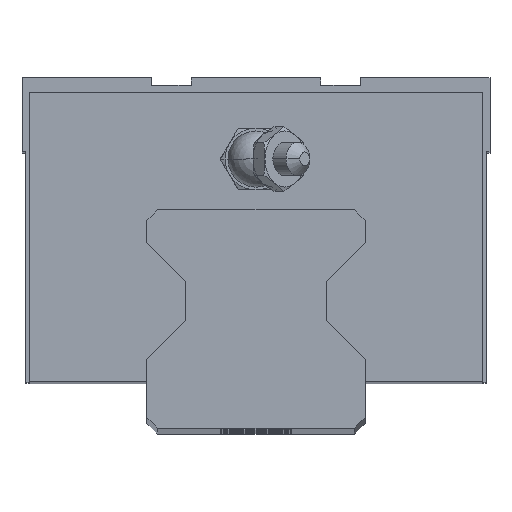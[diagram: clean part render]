
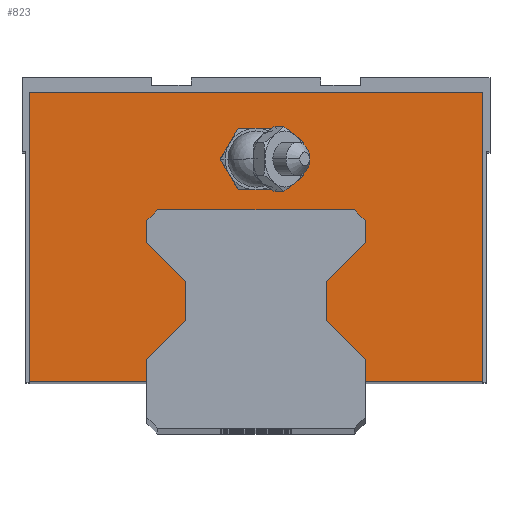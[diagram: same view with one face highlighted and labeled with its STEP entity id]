
A CAD part, top view. The second image highlights one B-rep face of the part: STEP entity #823.
In plain terms, the highlighted planar face has unit normal (0, 0, 1).
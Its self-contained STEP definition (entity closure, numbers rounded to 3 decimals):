
#823=ADVANCED_FACE('',(#1688,#1689),#1690,.T.);
#1688=FACE_BOUND('',#2548,.T.);
#1689=FACE_OUTER_BOUND('',#2549,.T.);
#1690=PLANE('',#2550);
#2548=EDGE_LOOP('',(#4874,#4875));
#2549=EDGE_LOOP('',(#4876,#4877,#4878,#4879,#4880,#4881,#4882,#4883,#4884,#4885,#4886,#4887,#4888,#4889,#4890,#4891,#4892,#4893));
#2550=AXIS2_PLACEMENT_3D('',#4894,#4895,#4896);
#4874=ORIENTED_EDGE('',*,*,#5739,.T.);
#4875=ORIENTED_EDGE('',*,*,#5065,.T.);
#4876=ORIENTED_EDGE('',*,*,#5672,.F.);
#4877=ORIENTED_EDGE('',*,*,#5641,.F.);
#4878=ORIENTED_EDGE('',*,*,#5635,.F.);
#4879=ORIENTED_EDGE('',*,*,#5727,.F.);
#4880=ORIENTED_EDGE('',*,*,#5487,.F.);
#4881=ORIENTED_EDGE('',*,*,#5683,.F.);
#4882=ORIENTED_EDGE('',*,*,#5662,.F.);
#4883=ORIENTED_EDGE('',*,*,#5751,.F.);
#4884=ORIENTED_EDGE('',*,*,#5547,.F.);
#4885=ORIENTED_EDGE('',*,*,#5602,.F.);
#4886=ORIENTED_EDGE('',*,*,#5658,.F.);
#4887=ORIENTED_EDGE('',*,*,#5163,.F.);
#4888=ORIENTED_EDGE('',*,*,#5646,.F.);
#4889=ORIENTED_EDGE('',*,*,#5793,.F.);
#4890=ORIENTED_EDGE('',*,*,#5332,.F.);
#4891=ORIENTED_EDGE('',*,*,#5520,.F.);
#4892=ORIENTED_EDGE('',*,*,#5826,.F.);
#4893=ORIENTED_EDGE('',*,*,#4946,.F.);
#4894=CARTESIAN_POINT('',(0.0,25.417,-34.1));
#4895=DIRECTION('',(0.,0.,1.0));
#4896=DIRECTION('',(1.0,0.0,0.));
#4946=EDGE_CURVE('',#5881,#5884,#5885,.T.);
#5065=EDGE_CURVE('',#6096,#6094,#6097,.T.);
#5163=EDGE_CURVE('',#6252,#6255,#6256,.T.);
#5332=EDGE_CURVE('',#6521,#6524,#6525,.T.);
#5487=EDGE_CURVE('',#6755,#6757,#6758,.T.);
#5520=EDGE_CURVE('',#6800,#6521,#6803,.T.);
#5547=EDGE_CURVE('',#6835,#6838,#6839,.T.);
#5602=EDGE_CURVE('',#6911,#6835,#6914,.T.);
#5635=EDGE_CURVE('',#6958,#6960,#6961,.T.);
#5641=EDGE_CURVE('',#6960,#6968,#6969,.T.);
#5646=EDGE_CURVE('',#6974,#6252,#6977,.T.);
#5658=EDGE_CURVE('',#6255,#6911,#6989,.T.);
#5662=EDGE_CURVE('',#6992,#6995,#6996,.T.);
#5672=EDGE_CURVE('',#6968,#5881,#7008,.T.);
#5683=EDGE_CURVE('',#6995,#6755,#7021,.T.);
#5727=EDGE_CURVE('',#6757,#6958,#7066,.T.);
#5739=EDGE_CURVE('',#6094,#6096,#7078,.T.);
#5751=EDGE_CURVE('',#6838,#6992,#7090,.T.);
#5793=EDGE_CURVE('',#6524,#6974,#7134,.T.);
#5826=EDGE_CURVE('',#5884,#6800,#7167,.T.);
#5881=VERTEX_POINT('',#7233);
#5884=VERTEX_POINT('',#7237);
#5885=LINE('',#7238,#7239);
#6094=VERTEX_POINT('',#7642);
#6096=VERTEX_POINT('',#7645);
#6097=CIRCLE('',#7646,3.6);
#6252=VERTEX_POINT('',#7947);
#6255=VERTEX_POINT('',#7951);
#6256=LINE('',#7952,#7953);
#6521=VERTEX_POINT('',#8346);
#6524=VERTEX_POINT('',#8350);
#6525=LINE('',#8351,#8352);
#6755=VERTEX_POINT('',#8686);
#6757=VERTEX_POINT('',#8689);
#6758=LINE('',#8690,#8691);
#6800=VERTEX_POINT('',#8757);
#6803=LINE('',#8761,#8762);
#6835=VERTEX_POINT('',#8840);
#6838=VERTEX_POINT('',#8844);
#6839=LINE('',#8845,#8846);
#6911=VERTEX_POINT('',#8978);
#6914=LINE('',#8982,#8983);
#6958=VERTEX_POINT('',#9046);
#6960=VERTEX_POINT('',#9049);
#6961=LINE('',#9050,#9051);
#6968=VERTEX_POINT('',#9061);
#6969=LINE('',#9062,#9063);
#6974=VERTEX_POINT('',#9070);
#6977=LINE('',#9074,#9075);
#6989=LINE('',#9092,#9093);
#6992=VERTEX_POINT('',#9097);
#6995=VERTEX_POINT('',#9101);
#6996=LINE('',#9102,#9103);
#7008=LINE('',#9120,#9121);
#7021=LINE('',#9138,#9139);
#7066=LINE('',#9222,#9223);
#7078=CIRCLE('',#9239,3.6);
#7090=LINE('',#9255,#9256);
#7134=LINE('',#9328,#9329);
#7167=LINE('',#9378,#9379);
#7233=CARTESIAN_POINT('',(9.0,13.8,-34.1));
#7237=CARTESIAN_POINT('',(9.0,18.8,-34.1));
#7238=CARTESIAN_POINT('',(9.0,13.8,-34.1));
#7239=VECTOR('',#9427,1000.0);
#7642=CARTESIAN_POINT('',(3.6,34.55,-34.1));
#7645=CARTESIAN_POINT('',(-3.6,34.55,-34.1));
#7646=AXIS2_PLACEMENT_3D('',#9568,#9569,#9570);
#7947=CARTESIAN_POINT('',(-14.0,26.6,-34.1));
#7951=CARTESIAN_POINT('',(-14.0,23.8,-34.1));
#7952=CARTESIAN_POINT('',(-14.0,26.6,-34.1));
#7953=VECTOR('',#9697,1000.0);
#8346=CARTESIAN_POINT('',(14.0,26.6,-34.1));
#8350=CARTESIAN_POINT('',(12.6,28.0,-34.1));
#8351=CARTESIAN_POINT('',(14.0,26.6,-34.1));
#8352=VECTOR('',#9942,1000.0);
#8686=CARTESIAN_POINT('',(-29.05,43.1,-34.1));
#8689=CARTESIAN_POINT('',(29.05,43.1,-34.1));
#8690=CARTESIAN_POINT('',(-29.05,43.1,-34.1));
#8691=VECTOR('',#10181,1000.0);
#8757=CARTESIAN_POINT('',(14.0,23.8,-34.1));
#8761=CARTESIAN_POINT('',(14.0,23.8,-34.1));
#8762=VECTOR('',#10214,1000.0);
#8840=CARTESIAN_POINT('',(-9.0,13.8,-34.1));
#8844=CARTESIAN_POINT('',(-14.0,8.8,-34.1));
#8845=CARTESIAN_POINT('',(-9.0,13.8,-34.1));
#8846=VECTOR('',#10233,1000.0);
#8978=CARTESIAN_POINT('',(-9.0,18.8,-34.1));
#8982=CARTESIAN_POINT('',(-9.0,18.8,-34.1));
#8983=VECTOR('',#10292,1000.0);
#9046=CARTESIAN_POINT('',(29.05,6.0,-34.1));
#9049=CARTESIAN_POINT('',(14.0,6.0,-34.1));
#9050=CARTESIAN_POINT('',(29.05,6.0,-34.1));
#9051=VECTOR('',#10325,1000.0);
#9061=CARTESIAN_POINT('',(14.0,8.8,-34.1));
#9062=CARTESIAN_POINT('',(14.0,6.0,-34.1));
#9063=VECTOR('',#10329,1000.0);
#9070=CARTESIAN_POINT('',(-12.6,28.0,-34.1));
#9074=CARTESIAN_POINT('',(-12.6,28.0,-34.1));
#9075=VECTOR('',#10333,1000.0);
#9092=CARTESIAN_POINT('',(-14.0,23.8,-34.1));
#9093=VECTOR('',#10342,1000.0);
#9097=CARTESIAN_POINT('',(-14.0,6.0,-34.1));
#9101=CARTESIAN_POINT('',(-29.05,6.0,-34.1));
#9102=CARTESIAN_POINT('',(-29.05,6.0,-34.1));
#9103=VECTOR('',#10345,1000.0);
#9120=CARTESIAN_POINT('',(14.0,8.8,-34.1));
#9121=VECTOR('',#10354,1000.0);
#9138=CARTESIAN_POINT('',(-29.05,6.0,-34.1));
#9139=VECTOR('',#10365,1000.0);
#9222=CARTESIAN_POINT('',(29.05,43.1,-34.1));
#9223=VECTOR('',#10397,1000.0);
#9239=AXIS2_PLACEMENT_3D('',#10402,#10403,#10404);
#9255=CARTESIAN_POINT('',(-14.0,8.8,-34.1));
#9256=VECTOR('',#10415,1000.0);
#9328=CARTESIAN_POINT('',(12.6,28.0,-34.1));
#9329=VECTOR('',#10437,1000.0);
#9378=CARTESIAN_POINT('',(9.0,18.8,-34.1));
#9379=VECTOR('',#10449,1000.0);
#9427=DIRECTION('',(0.0,1.0,0.0));
#9568=CARTESIAN_POINT('',(0.0,34.55,-34.1));
#9569=DIRECTION('',(0.,0.,-1.0));
#9570=DIRECTION('',(1.0,0.,0.));
#9697=DIRECTION('',(0.0,-1.0,0.0));
#9942=DIRECTION('',(-0.707,0.707,0.0));
#10181=DIRECTION('',(1.0,0.0,0.0));
#10214=DIRECTION('',(0.0,1.0,0.0));
#10233=DIRECTION('',(-0.707,-0.707,0.0));
#10292=DIRECTION('',(0.0,-1.0,0.0));
#10325=DIRECTION('',(-1.0,0.0,0.0));
#10329=DIRECTION('',(0.0,1.0,0.0));
#10333=DIRECTION('',(-0.707,-0.707,0.0));
#10342=DIRECTION('',(0.707,-0.707,0.0));
#10345=DIRECTION('',(-1.0,-0.0,-0.0));
#10354=DIRECTION('',(-0.707,0.707,0.0));
#10365=DIRECTION('',(0.0,1.0,0.0));
#10397=DIRECTION('',(0.0,-1.0,0.0));
#10402=CARTESIAN_POINT('',(0.0,34.55,-34.1));
#10403=DIRECTION('',(0.,0.,-1.0));
#10404=DIRECTION('',(1.0,0.,0.));
#10415=DIRECTION('',(0.0,-1.0,0.0));
#10437=DIRECTION('',(-1.0,0.0,0.0));
#10449=DIRECTION('',(0.707,0.707,0.0));
